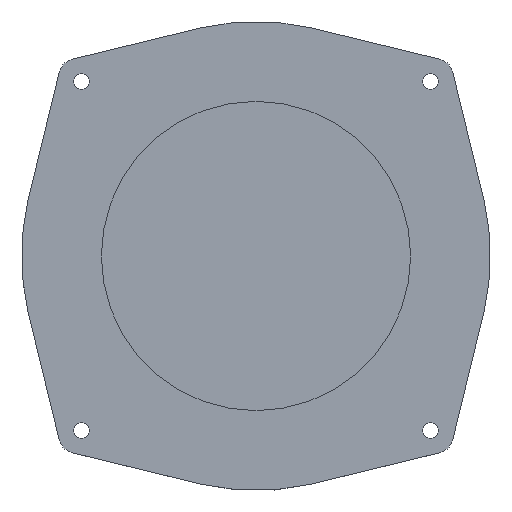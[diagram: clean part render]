
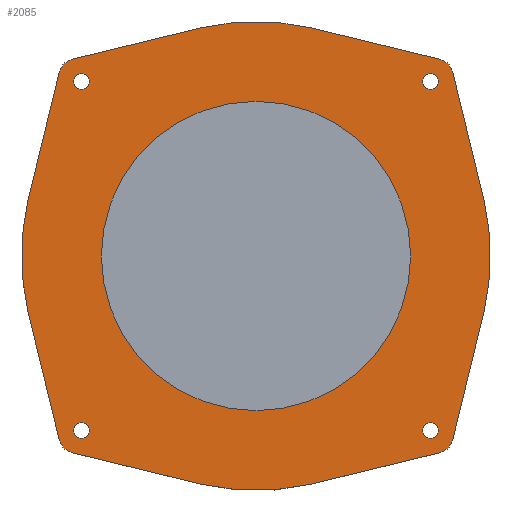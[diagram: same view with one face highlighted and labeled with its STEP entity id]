
A CAD part, top view. The second image highlights one B-rep face of the part: STEP entity #2085.
In plain terms, the highlighted planar face has unit normal (0, 0, 1).
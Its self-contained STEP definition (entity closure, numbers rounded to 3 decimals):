
#110=FACE_BOUND('',#266,.T.);
#111=FACE_BOUND('',#267,.T.);
#112=FACE_BOUND('',#268,.T.);
#113=FACE_BOUND('',#269,.T.);
#114=FACE_BOUND('',#270,.T.);
#141=FACE_OUTER_BOUND('',#265,.T.);
#265=EDGE_LOOP('',(#1434,#1435,#1436,#1437,#1438,#1439,#1440,#1441,#1442,
#1443,#1444,#1445,#1446,#1447,#1448,#1449));
#266=EDGE_LOOP('',(#1450));
#267=EDGE_LOOP('',(#1451));
#268=EDGE_LOOP('',(#1452));
#269=EDGE_LOOP('',(#1453));
#270=EDGE_LOOP('',(#1454));
#391=LINE('',#3025,#570);
#394=LINE('',#3033,#573);
#397=LINE('',#3041,#576);
#400=LINE('',#3049,#579);
#403=LINE('',#3057,#582);
#406=LINE('',#3065,#585);
#409=LINE('',#3073,#588);
#412=LINE('',#3080,#591);
#570=VECTOR('',#2444,36.628);
#573=VECTOR('',#2453,36.626);
#576=VECTOR('',#2462,36.626);
#579=VECTOR('',#2471,36.628);
#582=VECTOR('',#2480,36.628);
#585=VECTOR('',#2489,36.626);
#588=VECTOR('',#2498,36.626);
#591=VECTOR('',#2507,36.628);
#752=CIRCLE('',#2216,5.);
#753=CIRCLE('',#2219,65.25);
#754=CIRCLE('',#2222,5.);
#755=CIRCLE('',#2225,65.25);
#756=CIRCLE('',#2228,5.);
#757=CIRCLE('',#2231,65.25);
#758=CIRCLE('',#2234,5.);
#759=CIRCLE('',#2237,65.25);
#760=CIRCLE('',#2240,2.15);
#761=CIRCLE('',#2241,2.15);
#762=CIRCLE('',#2242,2.15);
#763=CIRCLE('',#2243,2.15);
#764=CIRCLE('',#2244,43.);
#842=VERTEX_POINT('',#3018);
#843=VERTEX_POINT('',#3020);
#844=VERTEX_POINT('',#3024);
#845=VERTEX_POINT('',#3028);
#846=VERTEX_POINT('',#3032);
#847=VERTEX_POINT('',#3036);
#848=VERTEX_POINT('',#3040);
#849=VERTEX_POINT('',#3044);
#850=VERTEX_POINT('',#3048);
#851=VERTEX_POINT('',#3052);
#852=VERTEX_POINT('',#3056);
#853=VERTEX_POINT('',#3060);
#854=VERTEX_POINT('',#3064);
#855=VERTEX_POINT('',#3068);
#856=VERTEX_POINT('',#3072);
#857=VERTEX_POINT('',#3076);
#858=VERTEX_POINT('',#3082);
#859=VERTEX_POINT('',#3084);
#860=VERTEX_POINT('',#3086);
#861=VERTEX_POINT('',#3088);
#862=VERTEX_POINT('',#3090);
#1054=EDGE_CURVE('',#843,#842,#752,.T.);
#1056=EDGE_CURVE('',#844,#843,#391,.T.);
#1058=EDGE_CURVE('',#845,#844,#753,.T.);
#1060=EDGE_CURVE('',#846,#845,#394,.T.);
#1062=EDGE_CURVE('',#847,#846,#754,.T.);
#1064=EDGE_CURVE('',#848,#847,#397,.T.);
#1066=EDGE_CURVE('',#849,#848,#755,.T.);
#1068=EDGE_CURVE('',#850,#849,#400,.T.);
#1070=EDGE_CURVE('',#851,#850,#756,.T.);
#1072=EDGE_CURVE('',#852,#851,#403,.T.);
#1074=EDGE_CURVE('',#853,#852,#757,.T.);
#1076=EDGE_CURVE('',#854,#853,#406,.T.);
#1078=EDGE_CURVE('',#855,#854,#758,.T.);
#1080=EDGE_CURVE('',#856,#855,#409,.T.);
#1082=EDGE_CURVE('',#857,#856,#759,.T.);
#1084=EDGE_CURVE('',#842,#857,#412,.T.);
#1085=EDGE_CURVE('',#858,#858,#760,.T.);
#1086=EDGE_CURVE('',#859,#859,#761,.T.);
#1087=EDGE_CURVE('',#860,#860,#762,.T.);
#1088=EDGE_CURVE('',#861,#861,#763,.T.);
#1089=EDGE_CURVE('',#862,#862,#764,.T.);
#1434=ORIENTED_EDGE('',*,*,#1054,.T.);
#1435=ORIENTED_EDGE('',*,*,#1084,.T.);
#1436=ORIENTED_EDGE('',*,*,#1082,.T.);
#1437=ORIENTED_EDGE('',*,*,#1080,.T.);
#1438=ORIENTED_EDGE('',*,*,#1078,.T.);
#1439=ORIENTED_EDGE('',*,*,#1076,.T.);
#1440=ORIENTED_EDGE('',*,*,#1074,.T.);
#1441=ORIENTED_EDGE('',*,*,#1072,.T.);
#1442=ORIENTED_EDGE('',*,*,#1070,.T.);
#1443=ORIENTED_EDGE('',*,*,#1068,.T.);
#1444=ORIENTED_EDGE('',*,*,#1066,.T.);
#1445=ORIENTED_EDGE('',*,*,#1064,.T.);
#1446=ORIENTED_EDGE('',*,*,#1062,.T.);
#1447=ORIENTED_EDGE('',*,*,#1060,.T.);
#1448=ORIENTED_EDGE('',*,*,#1058,.T.);
#1449=ORIENTED_EDGE('',*,*,#1056,.T.);
#1450=ORIENTED_EDGE('',*,*,#1085,.F.);
#1451=ORIENTED_EDGE('',*,*,#1086,.F.);
#1452=ORIENTED_EDGE('',*,*,#1087,.F.);
#1453=ORIENTED_EDGE('',*,*,#1088,.F.);
#1454=ORIENTED_EDGE('',*,*,#1089,.F.);
#1992=PLANE('',#2239);
#2085=ADVANCED_FACE('',(#141,#110,#111,#112,#113,#114),#1992,.T.);
#2216=AXIS2_PLACEMENT_3D('',#3021,#2439,#2440);
#2219=AXIS2_PLACEMENT_3D('',#3029,#2448,#2449);
#2222=AXIS2_PLACEMENT_3D('',#3037,#2457,#2458);
#2225=AXIS2_PLACEMENT_3D('',#3045,#2466,#2467);
#2228=AXIS2_PLACEMENT_3D('',#3053,#2475,#2476);
#2231=AXIS2_PLACEMENT_3D('',#3061,#2484,#2485);
#2234=AXIS2_PLACEMENT_3D('',#3069,#2493,#2494);
#2237=AXIS2_PLACEMENT_3D('',#3077,#2502,#2503);
#2239=AXIS2_PLACEMENT_3D('',#3081,#2508,#2509);
#2240=AXIS2_PLACEMENT_3D('',#3083,#2510,#2511);
#2241=AXIS2_PLACEMENT_3D('',#3085,#2512,#2513);
#2242=AXIS2_PLACEMENT_3D('',#3087,#2514,#2515);
#2243=AXIS2_PLACEMENT_3D('',#3089,#2516,#2517);
#2244=AXIS2_PLACEMENT_3D('',#3091,#2518,#2519);
#2439=DIRECTION('center_axis',(0.,0.,1.));
#2440=DIRECTION('ref_axis',(0.972,0.237,0.));
#2444=DIRECTION('',(-0.237,0.972,0.));
#2448=DIRECTION('center_axis',(0.,0.,1.));
#2449=DIRECTION('ref_axis',(0.972,-0.237,0.));
#2453=DIRECTION('',(0.237,0.972,0.));
#2457=DIRECTION('center_axis',(0.,0.,1.));
#2458=DIRECTION('ref_axis',(0.237,-0.972,0.));
#2462=DIRECTION('',(0.972,0.237,0.));
#2466=DIRECTION('center_axis',(0.,0.,1.));
#2467=DIRECTION('ref_axis',(-0.237,-0.972,0.));
#2471=DIRECTION('',(0.972,-0.237,0.));
#2475=DIRECTION('center_axis',(0.,0.,1.));
#2476=DIRECTION('ref_axis',(-0.972,-0.237,0.));
#2480=DIRECTION('',(0.237,-0.972,0.));
#2484=DIRECTION('center_axis',(0.,0.,1.));
#2485=DIRECTION('ref_axis',(-0.972,0.237,0.));
#2489=DIRECTION('',(-0.237,-0.972,0.));
#2493=DIRECTION('center_axis',(0.,0.,1.));
#2494=DIRECTION('ref_axis',(-0.237,0.972,0.));
#2498=DIRECTION('',(-0.972,-0.237,0.));
#2502=DIRECTION('center_axis',(0.,0.,1.));
#2503=DIRECTION('ref_axis',(0.237,0.972,0.));
#2507=DIRECTION('',(-0.972,0.237,0.));
#2508=DIRECTION('center_axis',(0.,0.,1.));
#2509=DIRECTION('ref_axis',(1.,0.,0.));
#2510=DIRECTION('center_axis',(0.,0.,1.));
#2511=DIRECTION('ref_axis',(1.,0.,0.));
#2512=DIRECTION('center_axis',(0.,0.,1.));
#2513=DIRECTION('ref_axis',(1.,0.,0.));
#2514=DIRECTION('center_axis',(0.,0.,1.));
#2515=DIRECTION('ref_axis',(1.,0.,0.));
#2516=DIRECTION('center_axis',(0.,0.,1.));
#2517=DIRECTION('ref_axis',(1.,0.,0.));
#2518=DIRECTION('center_axis',(0.,0.,1.));
#2519=DIRECTION('ref_axis',(1.,0.,0.));
#3018=CARTESIAN_POINT('',(51.045,54.714,6.));
#3020=CARTESIAN_POINT('',(54.718,51.04,6.));
#3021=CARTESIAN_POINT('Origin',(49.86,49.856,6.));
#3024=CARTESIAN_POINT('',(63.393,15.455,6.));
#3025=CARTESIAN_POINT('',(63.393,15.455,6.));
#3028=CARTESIAN_POINT('',(63.392,-15.459,6.));
#3029=CARTESIAN_POINT('Origin',(0.,0.,6.));
#3032=CARTESIAN_POINT('',(54.715,-51.042,6.));
#3033=CARTESIAN_POINT('',(54.715,-51.042,6.));
#3036=CARTESIAN_POINT('',(51.042,-54.715,6.));
#3037=CARTESIAN_POINT('Origin',(49.857,-49.857,6.));
#3040=CARTESIAN_POINT('',(15.459,-63.392,6.));
#3041=CARTESIAN_POINT('',(15.459,-63.392,6.));
#3044=CARTESIAN_POINT('',(-15.46,-63.392,6.));
#3045=CARTESIAN_POINT('Origin',(0.,0.,6.));
#3048=CARTESIAN_POINT('',(-51.045,-54.714,6.));
#3049=CARTESIAN_POINT('',(-51.045,-54.714,6.));
#3052=CARTESIAN_POINT('',(-54.718,-51.04,6.));
#3053=CARTESIAN_POINT('Origin',(-49.86,-49.856,6.));
#3056=CARTESIAN_POINT('',(-63.393,-15.455,6.));
#3057=CARTESIAN_POINT('',(-63.393,-15.455,6.));
#3060=CARTESIAN_POINT('',(-63.392,15.459,6.));
#3061=CARTESIAN_POINT('Origin',(0.,0.,6.));
#3064=CARTESIAN_POINT('',(-54.715,51.042,6.));
#3065=CARTESIAN_POINT('',(-54.715,51.042,6.));
#3068=CARTESIAN_POINT('',(-51.042,54.715,6.));
#3069=CARTESIAN_POINT('Origin',(-49.857,49.857,6.));
#3072=CARTESIAN_POINT('',(-15.459,63.392,6.));
#3073=CARTESIAN_POINT('',(-15.459,63.392,6.));
#3076=CARTESIAN_POINT('',(15.46,63.392,6.));
#3077=CARTESIAN_POINT('Origin',(0.,0.,6.));
#3080=CARTESIAN_POINT('',(51.045,54.714,6.));
#3081=CARTESIAN_POINT('Origin',(0.,0.,6.));
#3082=CARTESIAN_POINT('',(46.35,48.5,6.));
#3083=CARTESIAN_POINT('Origin',(48.5,48.5,6.));
#3084=CARTESIAN_POINT('',(-50.65,48.5,6.));
#3085=CARTESIAN_POINT('Origin',(-48.5,48.5,6.));
#3086=CARTESIAN_POINT('',(-50.65,-48.5,6.));
#3087=CARTESIAN_POINT('Origin',(-48.5,-48.5,6.));
#3088=CARTESIAN_POINT('',(46.35,-48.5,6.));
#3089=CARTESIAN_POINT('Origin',(48.5,-48.5,6.));
#3090=CARTESIAN_POINT('',(-43.,0.,6.));
#3091=CARTESIAN_POINT('Origin',(0.,0.,6.));
